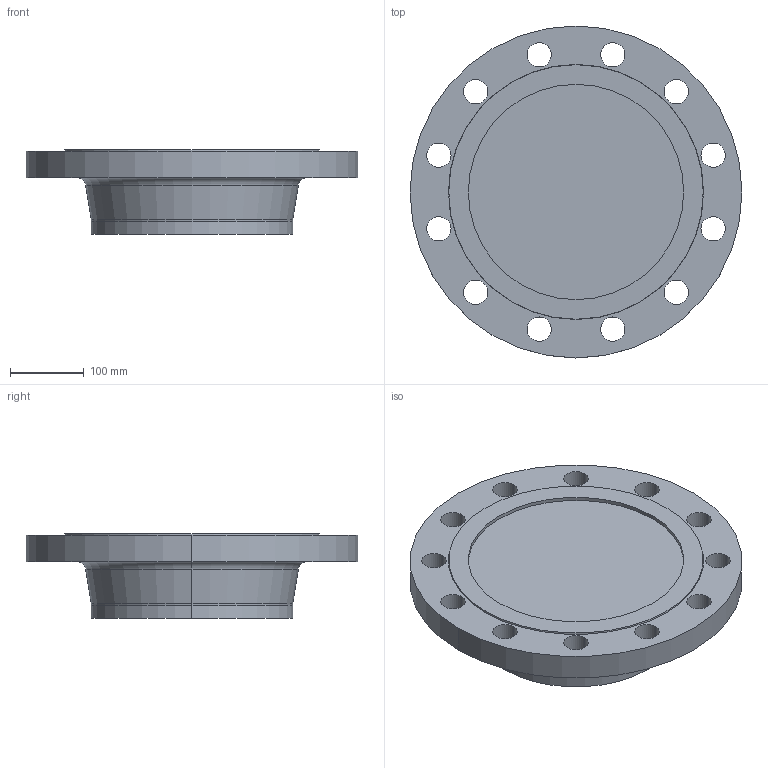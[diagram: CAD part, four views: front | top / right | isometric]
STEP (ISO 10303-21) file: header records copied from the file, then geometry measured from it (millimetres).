
FILE_DESCRIPTION (( 'STEP AP214' ), '1' );
FILE_NAME ('PN40 DN250 Type 21(ii) - Type G Face.STEP', '2019-01-05T03:21:21', ( '' ), ( '' ), 'SwSTEP 2.0', 'SolidWorks 2019', '' );
FILE_SCHEMA (( 'AUTOMOTIVE_DESIGN' ));
Length unit declared in the file: millimetre
Products named in the file (1): PN40 DN250 Type 21(ii) - Type G Face
Bounding box: 450 x 450 x 115 mm (x, y, z)
Volume: 9971200.5 mm3; surface area: 456633.5 mm2
Topology: 1 solids, 1 shells, 43 faces, 108 edges, 70 vertices
Faces by surface type: cylinder 30, plane 5, torus 4, cone 4
Entity records: 1410 total; most frequent: DIRECTION 270, CARTESIAN_POINT 222, ORIENTED_EDGE 216, AXIS2_PLACEMENT_3D 118, EDGE_CURVE 108, CIRCLE 74, EDGE_LOOP 70, VERTEX_POINT 70
